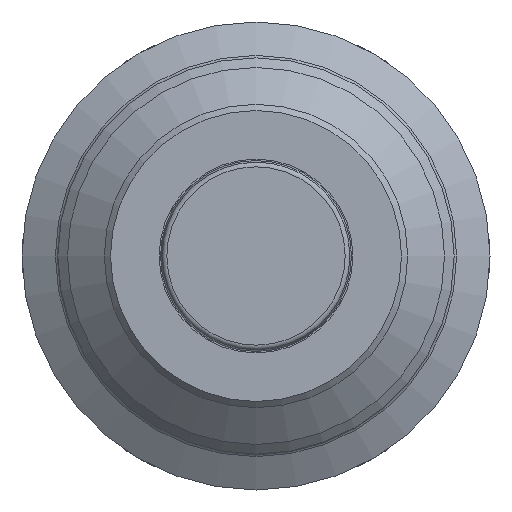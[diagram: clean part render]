
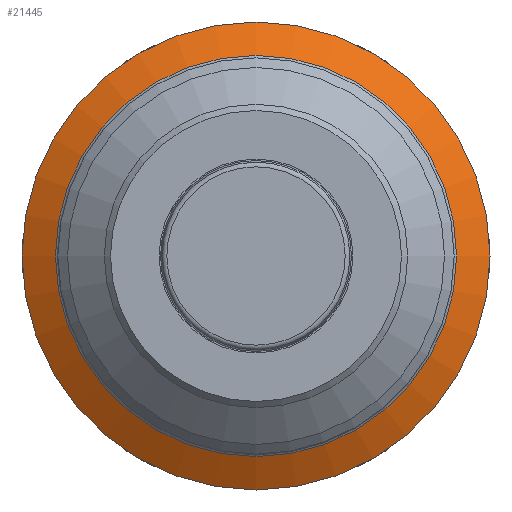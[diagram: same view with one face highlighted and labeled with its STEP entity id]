
A CAD part, front view. The second image highlights one B-rep face of the part: STEP entity #21445.
In plain terms, the highlighted conical face has half-angle 60 degrees and reference radius 17.45 mm.
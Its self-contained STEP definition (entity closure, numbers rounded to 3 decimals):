
#2945=LINE('',#36276,#4204);
#4204=VECTOR('',#23986,17.45);
#4947=CONICAL_SURFACE('',#22385,17.45,1.047);
#6617=FACE_OUTER_BOUND('',#7770,.T.);
#7770=EDGE_LOOP('',(#16929,#16930,#16931,#16932,#16933));
#8585=CIRCLE('',#22386,18.9);
#8586=CIRCLE('',#22387,16.2);
#8587=CIRCLE('',#22388,16.2);
#9764=VERTEX_POINT('',#36273);
#9765=VERTEX_POINT('',#36275);
#9766=VERTEX_POINT('',#36277);
#12360=EDGE_CURVE('',#9764,#9764,#8585,.T.);
#12361=EDGE_CURVE('',#9764,#9765,#2945,.T.);
#12362=EDGE_CURVE('',#9766,#9765,#8586,.T.);
#12363=EDGE_CURVE('',#9765,#9766,#8587,.T.);
#16929=ORIENTED_EDGE('',*,*,#12360,.F.);
#16930=ORIENTED_EDGE('',*,*,#12361,.T.);
#16931=ORIENTED_EDGE('',*,*,#12362,.F.);
#16932=ORIENTED_EDGE('',*,*,#12363,.F.);
#16933=ORIENTED_EDGE('',*,*,#12361,.F.);
#21445=ADVANCED_FACE('',(#6617),#4947,.T.);
#22385=AXIS2_PLACEMENT_3D('',#36272,#23982,#23983);
#22386=AXIS2_PLACEMENT_3D('',#36274,#23984,#23985);
#22387=AXIS2_PLACEMENT_3D('',#36278,#23987,#23988);
#22388=AXIS2_PLACEMENT_3D('',#36279,#23989,#23990);
#23982=DIRECTION('center_axis',(0.,1.,0.));
#23983=DIRECTION('ref_axis',(-1.,0.,0.));
#23984=DIRECTION('center_axis',(0.,1.,0.));
#23985=DIRECTION('ref_axis',(1.,0.,0.));
#23986=DIRECTION('',(-0.866,-0.5,0.));
#23987=DIRECTION('center_axis',(0.,-1.,0.));
#23988=DIRECTION('ref_axis',(1.,0.,0.));
#23989=DIRECTION('center_axis',(0.,-1.,0.));
#23990=DIRECTION('ref_axis',(1.,0.,0.));
#36272=CARTESIAN_POINT('Origin',(0.,-1.163,0.));
#36273=CARTESIAN_POINT('',(18.9,-0.326,0.));
#36274=CARTESIAN_POINT('Origin',(0.,-0.326,0.));
#36275=CARTESIAN_POINT('',(16.2,-1.885,0.));
#36276=CARTESIAN_POINT('',(17.45,-1.163,0.));
#36277=CARTESIAN_POINT('',(0.,-1.885,-16.2));
#36278=CARTESIAN_POINT('Origin',(0.,-1.885,0.));
#36279=CARTESIAN_POINT('Origin',(0.,-1.885,0.));
